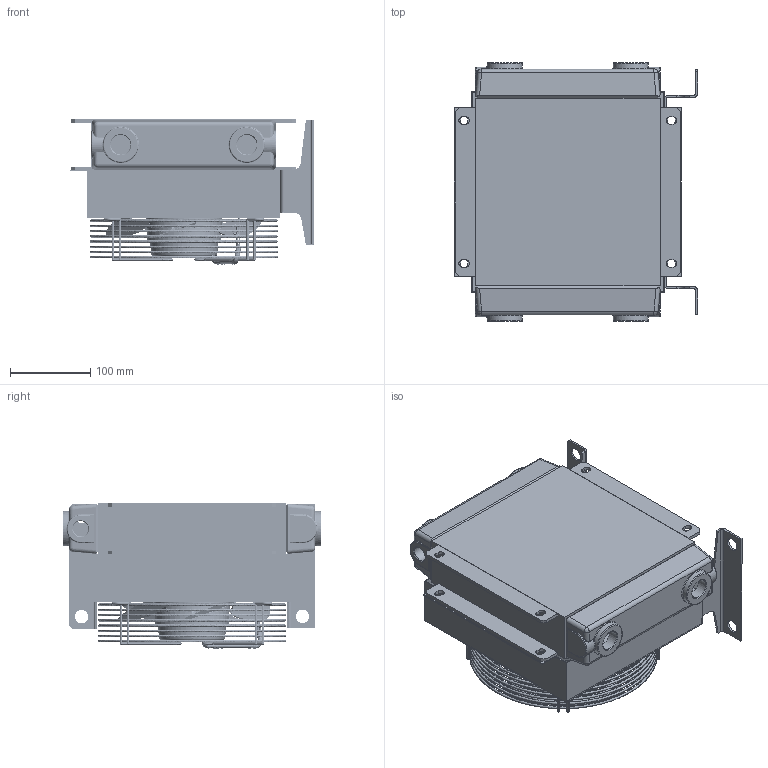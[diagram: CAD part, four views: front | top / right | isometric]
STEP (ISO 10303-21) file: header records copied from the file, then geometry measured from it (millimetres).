
FILE_DESCRIPTION(('STEP AP203'),'2;1');
FILE_NAME('SS2202400A-P.stp','2016-01-28T14:07:26',(''),(''),'2012.1.115','THINKDESIGN','');
FILE_SCHEMA(('CONFIG_CONTROL_DESIGN'));
Bounding box: 303.5 x 322 x 180.61 mm (x, y, z)
Volume: 3936510.8 mm3; surface area: 753558.4 mm2
Topology: 14 solids, 14 shells, 1104 faces, 4314 edges, 3764 vertices
Faces by surface type: bspline 640, cylinder 284, plane 180
Full cylindrical faces by diameter (mm): 6.5 x8, 6.75 x4, 7 x4, 16.5 x4, 19 x1, 24.5 x2, 220 x1
Entity records: 66298 total; most frequent: CARTESIAN_POINT 44150, DIRECTION 3674, COMPOSITE_CURVE_SEGMENT 3050, ORIENTED_EDGE 2330, VECTOR 1566, LINE 1566, TRIMMED_CURVE 1207, B_SPLINE_CURVE_WITH_KNOTS 1169
